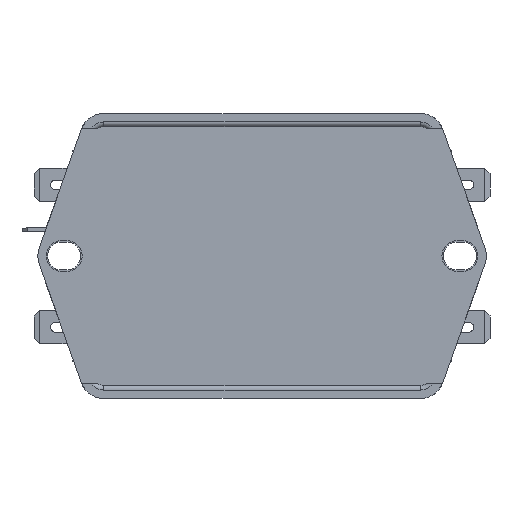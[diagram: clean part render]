
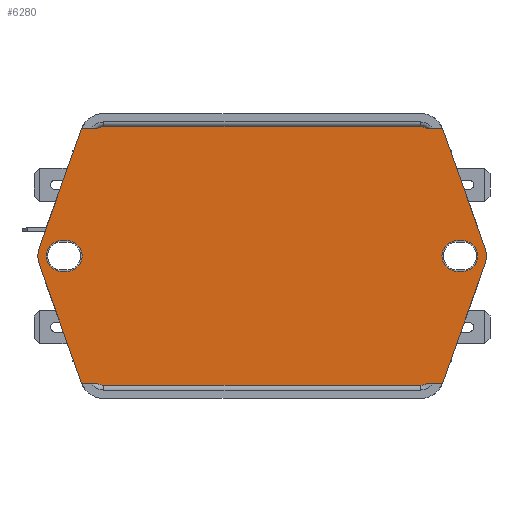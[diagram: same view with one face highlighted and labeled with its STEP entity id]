
A CAD part, top view. The second image highlights one B-rep face of the part: STEP entity #6280.
In plain terms, the highlighted planar face has unit normal (0, 0, 1).
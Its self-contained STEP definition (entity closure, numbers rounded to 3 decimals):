
#83=CARTESIAN_POINT('',(44.327,-14.187,30.3));
#84=VERTEX_POINT('',#83);
#91=CARTESIAN_POINT('',(-15.673,-14.187,30.3));
#92=VERTEX_POINT('',#91);
#93=CARTESIAN_POINT('',(44.327,-14.187,30.3));
#94=DIRECTION('',(-1.0,0.0,0.0));
#95=VECTOR('',#94,60.);
#96=LINE('',#93,#95);
#97=EDGE_CURVE('',#84,#92,#96,.T.);
#123=CARTESIAN_POINT('',(-15.673,34.813,30.3));
#124=VERTEX_POINT('',#123);
#131=CARTESIAN_POINT('',(44.327,34.813,30.3));
#132=VERTEX_POINT('',#131);
#133=CARTESIAN_POINT('',(-15.673,34.813,30.3));
#134=DIRECTION('',(1.0,0.0,0.0));
#135=VECTOR('',#134,60.0);
#136=LINE('',#133,#135);
#137=EDGE_CURVE('',#124,#132,#136,.T.);
#179=CARTESIAN_POINT('',(-16.873,34.413,30.3));
#180=VERTEX_POINT('',#179);
#187=CARTESIAN_POINT('',(-15.673,32.813,30.3));
#188=DIRECTION('',(0.0,0.0,-1.));
#189=DIRECTION('',(-0.707,0.707,0.0));
#190=AXIS2_PLACEMENT_3D('',#187,#188,#189);
#191=CIRCLE('',#190,2.);
#192=EDGE_CURVE('',#180,#124,#191,.T.);
#213=CARTESIAN_POINT('',(-16.873,-13.787,30.3));
#214=VERTEX_POINT('',#213);
#215=CARTESIAN_POINT('',(-15.673,-12.187,30.3));
#216=DIRECTION('',(0.0,0.0,-1.));
#217=DIRECTION('',(-0.707,-0.707,0.0));
#218=AXIS2_PLACEMENT_3D('',#215,#216,#217);
#219=CIRCLE('',#218,2.);
#220=EDGE_CURVE('',#92,#214,#219,.T.);
#263=CARTESIAN_POINT('',(45.527,34.413,30.3));
#264=VERTEX_POINT('',#263);
#265=CARTESIAN_POINT('',(44.327,32.813,30.3));
#266=DIRECTION('',(0.0,0.0,-1.0));
#267=DIRECTION('',(0.707,0.707,0.0));
#268=AXIS2_PLACEMENT_3D('',#265,#266,#267);
#269=CIRCLE('',#268,2.);
#270=EDGE_CURVE('',#132,#264,#269,.T.);
#329=CARTESIAN_POINT('',(45.527,-13.787,30.3));
#330=VERTEX_POINT('',#329);
#337=CARTESIAN_POINT('',(44.327,-12.187,30.3));
#338=DIRECTION('',(0.0,0.0,-1.0));
#339=DIRECTION('',(0.707,-0.707,0.0));
#340=AXIS2_PLACEMENT_3D('',#337,#338,#339);
#341=CIRCLE('',#340,2.);
#342=EDGE_CURVE('',#330,#84,#341,.T.);
#1839=CARTESIAN_POINT('',(48.53,34.413,30.3));
#1840=VERTEX_POINT('',#1839);
#1841=CARTESIAN_POINT('',(48.53,34.413,30.3));
#1842=DIRECTION('',(-1.0,0.0,0.0));
#1843=VECTOR('',#1842,3.004);
#1844=LINE('',#1841,#1843);
#1845=EDGE_CURVE('',#1840,#264,#1844,.T.);
#1981=CARTESIAN_POINT('',(-19.877,-13.787,30.3));
#1982=VERTEX_POINT('',#1981);
#1983=CARTESIAN_POINT('',(-19.877,-13.787,30.3));
#1984=DIRECTION('',(1.0,0.0,0.0));
#1985=VECTOR('',#1984,3.004);
#1986=LINE('',#1983,#1985);
#1987=EDGE_CURVE('',#1982,#214,#1986,.T.);
#5930=CARTESIAN_POINT('',(-22.673,7.413,30.3));
#5931=VERTEX_POINT('',#5930);
#5938=CARTESIAN_POINT('',(-22.673,13.213,30.3));
#5939=VERTEX_POINT('',#5938);
#5940=CARTESIAN_POINT('',(-22.673,10.313,30.3));
#5941=DIRECTION('',(0.0,0.0,-1.0));
#5942=DIRECTION('',(1.0,0.0,0.0));
#5943=AXIS2_PLACEMENT_3D('',#5940,#5941,#5942);
#5944=CIRCLE('',#5943,2.9);
#5945=EDGE_CURVE('',#5939,#5931,#5944,.T.);
#5970=CARTESIAN_POINT('',(-23.673,13.213,30.3));
#5971=VERTEX_POINT('',#5970);
#5972=CARTESIAN_POINT('',(-23.673,13.213,30.3));
#5973=DIRECTION('',(1.0,0.0,0.0));
#5974=VECTOR('',#5973,1.0);
#5975=LINE('',#5972,#5974);
#5976=EDGE_CURVE('',#5971,#5939,#5975,.T.);
#6023=CARTESIAN_POINT('',(-23.673,7.413,30.3));
#6024=VERTEX_POINT('',#6023);
#6025=CARTESIAN_POINT('',(-23.673,10.313,30.3));
#6026=DIRECTION('',(0.0,0.0,-1.0));
#6027=DIRECTION('',(-1.0,0.0,0.0));
#6028=AXIS2_PLACEMENT_3D('',#6025,#6026,#6027);
#6029=CIRCLE('',#6028,2.9);
#6030=EDGE_CURVE('',#6024,#5971,#6029,.T.);
#6053=CARTESIAN_POINT('',(-22.673,7.413,30.3));
#6054=DIRECTION('',(-1.0,0.0,0.0));
#6055=VECTOR('',#6054,1.);
#6056=LINE('',#6053,#6055);
#6057=EDGE_CURVE('',#5931,#6024,#6056,.T.);
#6079=CARTESIAN_POINT('',(51.327,13.213,30.3));
#6080=VERTEX_POINT('',#6079);
#6087=CARTESIAN_POINT('',(51.327,7.413,30.3));
#6088=VERTEX_POINT('',#6087);
#6089=CARTESIAN_POINT('',(51.327,10.313,30.3));
#6090=DIRECTION('',(0.0,0.0,-1.0));
#6091=DIRECTION('',(-1.0,0.0,0.0));
#6092=AXIS2_PLACEMENT_3D('',#6089,#6090,#6091);
#6093=CIRCLE('',#6092,2.9);
#6094=EDGE_CURVE('',#6088,#6080,#6093,.T.);
#6119=CARTESIAN_POINT('',(52.327,7.413,30.3));
#6120=VERTEX_POINT('',#6119);
#6121=CARTESIAN_POINT('',(52.327,7.413,30.3));
#6122=DIRECTION('',(-1.0,0.0,0.0));
#6123=VECTOR('',#6122,1.0);
#6124=LINE('',#6121,#6123);
#6125=EDGE_CURVE('',#6120,#6088,#6124,.T.);
#6151=CARTESIAN_POINT('',(52.327,13.213,30.3));
#6152=VERTEX_POINT('',#6151);
#6153=CARTESIAN_POINT('',(52.327,10.313,30.3));
#6154=DIRECTION('',(0.0,0.0,-1.0));
#6155=DIRECTION('',(1.0,0.0,0.0));
#6156=AXIS2_PLACEMENT_3D('',#6153,#6154,#6155);
#6157=CIRCLE('',#6156,2.9);
#6158=EDGE_CURVE('',#6152,#6120,#6157,.T.);
#6181=CARTESIAN_POINT('',(51.327,13.213,30.3));
#6182=DIRECTION('',(1.0,0.0,0.0));
#6183=VECTOR('',#6182,1.0);
#6184=LINE('',#6181,#6183);
#6185=EDGE_CURVE('',#6080,#6152,#6184,.T.);
#6191=CARTESIAN_POINT('',(14.327,10.313,30.3));
#6192=DIRECTION('',(0.0,0.0,-1.0));
#6193=DIRECTION('',(1.0,0.0,0.0));
#6194=AXIS2_PLACEMENT_3D('',#6191,#6192,#6193);
#6195=PLANE('',#6194);
#6196=CARTESIAN_POINT('',(-19.877,34.413,30.3));
#6197=VERTEX_POINT('',#6196);
#6198=CARTESIAN_POINT('',(-16.873,34.413,30.3));
#6199=DIRECTION('',(-1.0,0.0,0.0));
#6200=VECTOR('',#6199,3.004);
#6201=LINE('',#6198,#6200);
#6202=EDGE_CURVE('',#180,#6197,#6201,.T.);
#6203=ORIENTED_EDGE('',*,*,#6202,.T.);
#6204=CARTESIAN_POINT('',(-27.882,11.994,30.3));
#6205=VERTEX_POINT('',#6204);
#6206=CARTESIAN_POINT('',(-19.877,34.413,30.3));
#6207=DIRECTION('',(-0.336,-0.942,0.0));
#6208=VECTOR('',#6207,23.805);
#6209=LINE('',#6206,#6208);
#6210=EDGE_CURVE('',#6197,#6205,#6209,.T.);
#6211=ORIENTED_EDGE('',*,*,#6210,.T.);
#6212=CARTESIAN_POINT('',(-27.882,8.631,30.3));
#6213=VERTEX_POINT('',#6212);
#6214=CARTESIAN_POINT('',(-23.173,10.313,30.3));
#6215=DIRECTION('',(0.0,0.0,1.0));
#6216=DIRECTION('',(0.942,-0.336,0.0));
#6217=AXIS2_PLACEMENT_3D('',#6214,#6215,#6216);
#6218=CIRCLE('',#6217,5.);
#6219=EDGE_CURVE('',#6205,#6213,#6218,.T.);
#6220=ORIENTED_EDGE('',*,*,#6219,.T.);
#6221=CARTESIAN_POINT('',(-27.882,8.631,30.3));
#6222=DIRECTION('',(0.336,-0.942,0.0));
#6223=VECTOR('',#6222,23.805);
#6224=LINE('',#6221,#6223);
#6225=EDGE_CURVE('',#6213,#1982,#6224,.T.);
#6226=ORIENTED_EDGE('',*,*,#6225,.T.);
#6227=ORIENTED_EDGE('',*,*,#1987,.T.);
#6228=ORIENTED_EDGE('',*,*,#220,.F.);
#6229=ORIENTED_EDGE('',*,*,#97,.F.);
#6230=ORIENTED_EDGE('',*,*,#342,.F.);
#6231=CARTESIAN_POINT('',(48.53,-13.787,30.3));
#6232=VERTEX_POINT('',#6231);
#6233=CARTESIAN_POINT('',(45.527,-13.787,30.3));
#6234=DIRECTION('',(1.0,0.0,0.0));
#6235=VECTOR('',#6234,3.004);
#6236=LINE('',#6233,#6235);
#6237=EDGE_CURVE('',#330,#6232,#6236,.T.);
#6238=ORIENTED_EDGE('',*,*,#6237,.T.);
#6239=CARTESIAN_POINT('',(56.535,8.631,30.3));
#6240=VERTEX_POINT('',#6239);
#6241=CARTESIAN_POINT('',(48.53,-13.787,30.3));
#6242=DIRECTION('',(0.336,0.942,0.0));
#6243=VECTOR('',#6242,23.805);
#6244=LINE('',#6241,#6243);
#6245=EDGE_CURVE('',#6232,#6240,#6244,.T.);
#6246=ORIENTED_EDGE('',*,*,#6245,.T.);
#6247=CARTESIAN_POINT('',(56.535,11.994,30.3));
#6248=VERTEX_POINT('',#6247);
#6249=CARTESIAN_POINT('',(51.827,10.313,30.3));
#6250=DIRECTION('',(0.0,0.0,1.));
#6251=DIRECTION('',(-0.942,0.336,0.0));
#6252=AXIS2_PLACEMENT_3D('',#6249,#6250,#6251);
#6253=CIRCLE('',#6252,5.);
#6254=EDGE_CURVE('',#6240,#6248,#6253,.T.);
#6255=ORIENTED_EDGE('',*,*,#6254,.T.);
#6256=CARTESIAN_POINT('',(56.535,11.994,30.3));
#6257=DIRECTION('',(-0.336,0.942,0.0));
#6258=VECTOR('',#6257,23.805);
#6259=LINE('',#6256,#6258);
#6260=EDGE_CURVE('',#6248,#1840,#6259,.T.);
#6261=ORIENTED_EDGE('',*,*,#6260,.T.);
#6262=ORIENTED_EDGE('',*,*,#1845,.T.);
#6263=ORIENTED_EDGE('',*,*,#270,.F.);
#6264=ORIENTED_EDGE('',*,*,#137,.F.);
#6265=ORIENTED_EDGE('',*,*,#192,.F.);
#6266=EDGE_LOOP('',(#6203,#6211,#6220,#6226,#6227,#6228,#6229,#6230,#6238,#6246,#6255,#6261,#6262,#6263,#6264,#6265));
#6267=FACE_OUTER_BOUND('',#6266,.T.);
#6268=ORIENTED_EDGE('',*,*,#6158,.T.);
#6269=ORIENTED_EDGE('',*,*,#6125,.T.);
#6270=ORIENTED_EDGE('',*,*,#6094,.T.);
#6271=ORIENTED_EDGE('',*,*,#6185,.T.);
#6272=EDGE_LOOP('',(#6268,#6269,#6270,#6271));
#6273=FACE_BOUND('',#6272,.T.);
#6274=ORIENTED_EDGE('',*,*,#6030,.T.);
#6275=ORIENTED_EDGE('',*,*,#5976,.T.);
#6276=ORIENTED_EDGE('',*,*,#5945,.T.);
#6277=ORIENTED_EDGE('',*,*,#6057,.T.);
#6278=EDGE_LOOP('',(#6274,#6275,#6276,#6277));
#6279=FACE_BOUND('',#6278,.T.);
#6280=ADVANCED_FACE('',(#6267,#6273,#6279),#6195,.F.);
